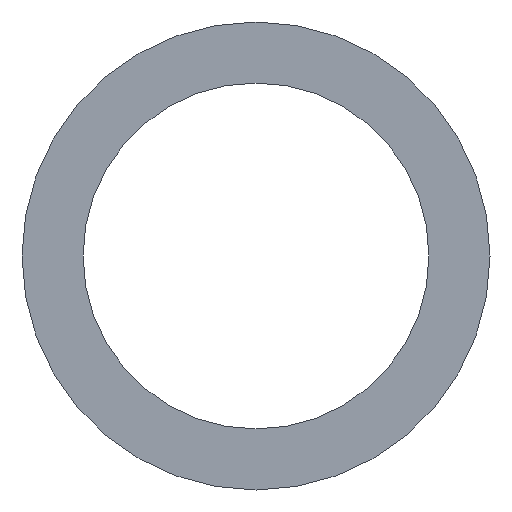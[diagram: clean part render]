
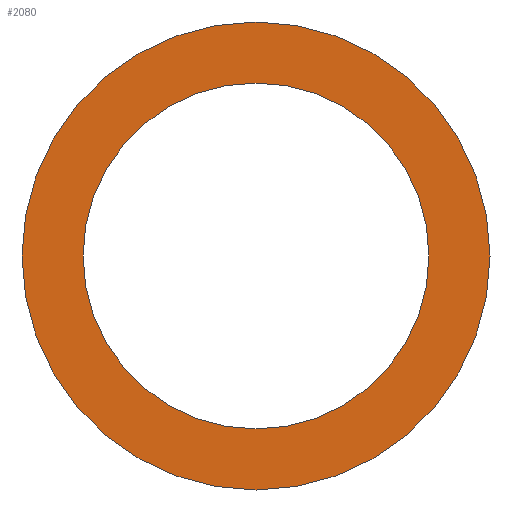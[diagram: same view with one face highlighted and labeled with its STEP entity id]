
A CAD part, left-side view. The second image highlights one B-rep face of the part: STEP entity #2080.
In plain terms, the highlighted planar face has unit normal (-1, 0, 0).
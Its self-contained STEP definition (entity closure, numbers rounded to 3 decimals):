
#120=CARTESIAN_POINT('',(58.555,44.5,0.));
#130=VERTEX_POINT('',#120);
#160=CARTESIAN_POINT('',(58.555,48.75,0.));
#170=DIRECTION('',(1.,0.,0.));
#180=DIRECTION('',(0.,1.,0.));
#190=AXIS2_PLACEMENT_3D('',#160,#170,#180);
#200=CIRCLE('',#190,4.25);
#210=CARTESIAN_POINT('',(58.555,53.,0.));
#220=VERTEX_POINT('',#210);
#230=EDGE_CURVE('',#130,#220,#200,.T.);
#1700=CARTESIAN_POINT('',(58.555,43.,0.));
#1710=VERTEX_POINT('',#1700);
#1790=CARTESIAN_POINT('',(58.555,54.5,0.));
#1800=VERTEX_POINT('',#1790);
#1830=CARTESIAN_POINT('',(58.555,48.75,0.));
#1840=DIRECTION('',(1.,0.,0.));
#1850=DIRECTION('',(0.,1.,0.));
#1860=AXIS2_PLACEMENT_3D('',#1830,#1840,#1850);
#1870=CIRCLE('',#1860,5.75);
#1880=EDGE_CURVE('',#1710,#1800,#1870,.T.);
#1930=CARTESIAN_POINT('',(58.555,53.75,0.));
#1940=DIRECTION('',(1.,0.,0.));
#1950=DIRECTION('',(0.,-1.,0.));
#1960=AXIS2_PLACEMENT_3D('',#1930,#1940,#1950);
#1970=PLANE('',#1960);
#1980=EDGE_CURVE('',#220,#130,#200,.T.);
#1990=ORIENTED_EDGE('',*,*,#1980,.T.);
#2000=ORIENTED_EDGE('',*,*,#230,.T.);
#2010=EDGE_LOOP('',(#2000,#1990));
#2020=FACE_BOUND('',#2010,.T.);
#2030=EDGE_CURVE('',#1800,#1710,#1870,.T.);
#2040=ORIENTED_EDGE('',*,*,#2030,.F.);
#2050=ORIENTED_EDGE('',*,*,#1880,.F.);
#2060=EDGE_LOOP('',(#2050,#2040));
#2070=FACE_OUTER_BOUND('',#2060,.T.);
#2080=ADVANCED_FACE('',(#2020,#2070),#1970,.F.);
